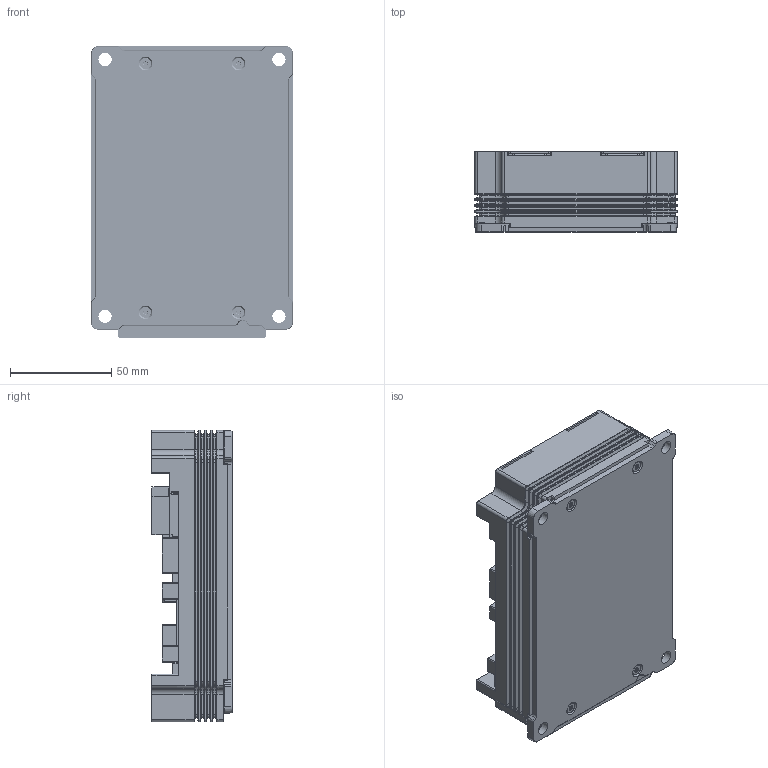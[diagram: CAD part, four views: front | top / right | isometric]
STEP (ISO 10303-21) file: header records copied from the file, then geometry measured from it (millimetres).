
FILE_DESCRIPTION (( 'STEP AP203' ), '1' );
FILE_NAME ('APM-009-003 for external.STEP', '2024-03-08T16:22:12', ( '' ), ( '' ), 'SwSTEP 2.0', 'SolidWorks 2022', '' );
FILE_SCHEMA (( 'CONFIG_CONTROL_DESIGN' ));
Products named in the file (1): APM-009-003 for external
Bounding box: 99.9 x 39.63 x 144 mm (x, y, z)
Volume: 213381.2 mm3; surface area: 205655.3 mm2
Topology: 51 solids, 52 shells, 4737 faces, 13210 edges, 8565 vertices
Faces by surface type: plane 2777, cylinder 1334, bspline 361, cone 190, torus 40, sphere 35
Full cylindrical faces by diameter (mm): 0.7 x2, 0.797 x1, 0.8 x7, 1 x8, 1.5 x23, 2 x9, 2.056 x4, 2.35 x8, 2.5 x4, 3 x15, 3.426 x2, 3.6 x4, 4.5 x16, 5 x12, 6 x7, 6.5 x4, 7 x7, 8.999 x2, 9 x12, 14.998 x2, 14.999 x2, 15 x12
Entity records: 219879 total; most frequent: CARTESIAN_POINT 101987, ORIENTED_EDGE 25718, DIRECTION 22718, EDGE_CURVE 12859, VECTOR 8548, LINE 8548, VERTEX_POINT 8481, AXIS2_PLACEMENT_3D 7085
